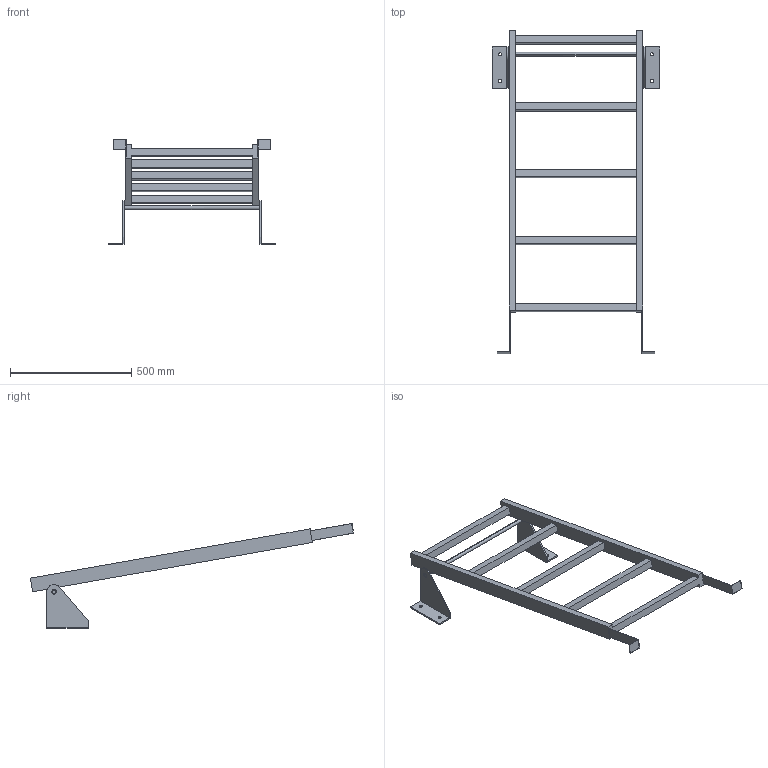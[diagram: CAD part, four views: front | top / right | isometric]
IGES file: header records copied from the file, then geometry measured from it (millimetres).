
Start section:  PTC IGES file: 52309750.igs
Global section: file name: 52309750.igs; native system: Creo Parametric by PTC Inc.; preprocessor: 2022162; author: wep; organization: Unknown; date: 20241017.085350; units: millimetre
Bounding box: 690 x 1332 x 432.3 mm (x, y, z)
Surface area: 878638.7 mm2 (no closed solid volume)
Topology: 0 solids, 0 shells, 78 faces, 408 edges, 408 vertices
Faces by surface type: bspline 62, revolution 16
